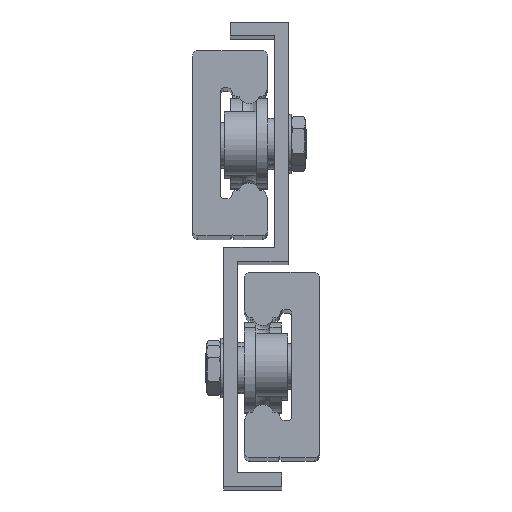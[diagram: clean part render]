
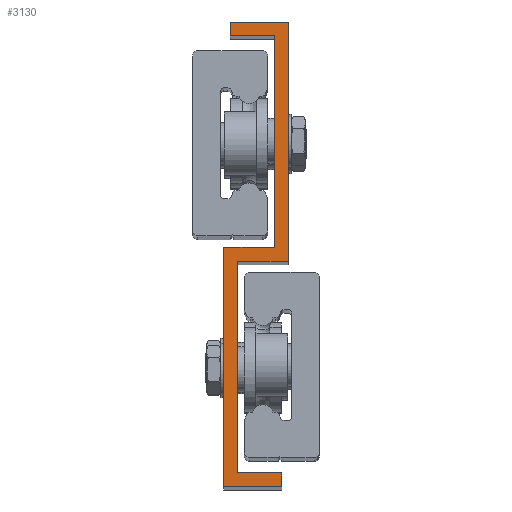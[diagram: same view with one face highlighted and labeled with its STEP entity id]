
A CAD part, top view. The second image highlights one B-rep face of the part: STEP entity #3130.
In plain terms, the highlighted planar face has unit normal (0, 0, 1).
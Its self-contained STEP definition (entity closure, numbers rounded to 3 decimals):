
#60 = DIRECTION ( 'NONE',  ( 1., 0., 0. ) ) ;
#285 = ORIENTED_EDGE ( 'NONE', *, *, #1359, .T. ) ;
#489 = EDGE_CURVE ( 'NONE', #4816, #2777, #667, .T. ) ;
#498 = VERTEX_POINT ( 'NONE', #8201 ) ;
#526 = VECTOR ( 'NONE', #3832, 1000. ) ;
#667 = LINE ( 'NONE', #3476, #6866 ) ;
#679 = EDGE_CURVE ( 'NONE', #498, #6104, #2399, .T. ) ;
#707 = DIRECTION ( 'NONE',  ( 1., 0., 0. ) ) ;
#960 = FACE_OUTER_BOUND ( 'NONE', #1976, .T. ) ;
#1023 = VERTEX_POINT ( 'NONE', #6354 ) ;
#1195 = DIRECTION ( 'NONE',  ( 0., 1., 0. ) ) ;
#1359 = EDGE_CURVE ( 'NONE', #2777, #3383, #3498, .T. ) ;
#1445 = CARTESIAN_POINT ( 'NONE',  ( 0., 0., 370. ) ) ;
#1765 = CARTESIAN_POINT ( 'NONE',  ( 1.2, 85.2, 370. ) ) ;
#1912 = DIRECTION ( 'NONE',  ( 0., -1., 0. ) ) ;
#1948 = VECTOR ( 'NONE', #1195, 1000. ) ;
#1976 = EDGE_LOOP ( 'NONE', ( #285, #4547, #7558, #6493, #6634, #4716, #6992, #8151, #5974, #3929, #6964, #5746 ) ) ;
#2097 = VECTOR ( 'NONE', #2145, 1000. ) ;
#2100 = CARTESIAN_POINT ( 'NONE',  ( 0., 0., 370. ) ) ;
#2145 = DIRECTION ( 'NONE',  ( 0., 1., 0. ) ) ;
#2171 = EDGE_CURVE ( 'NONE', #3971, #498, #2822, .T. ) ;
#2342 = CARTESIAN_POINT ( 'NONE',  ( 1.2, 85.2, 370. ) ) ;
#2399 = LINE ( 'NONE', #8827, #526 ) ;
#2554 = CARTESIAN_POINT ( 'NONE',  ( 11., 0., 370. ) ) ;
#2744 = DIRECTION ( 'NONE',  ( -1., 0., 0. ) ) ;
#2777 = VERTEX_POINT ( 'NONE', #3949 ) ;
#2822 = LINE ( 'NONE', #7874, #3691 ) ;
#2949 = DIRECTION ( 'NONE',  ( -1., 0., 0. ) ) ;
#3130 = ADVANCED_FACE ( 'NONE', ( #960 ), #3767, .T. ) ;
#3237 = VECTOR ( 'NONE', #2949, 1000. ) ;
#3383 = VERTEX_POINT ( 'NONE', #3695 ) ;
#3476 = CARTESIAN_POINT ( 'NONE',  ( 12.2, 45.2, 370. ) ) ;
#3498 = LINE ( 'NONE', #7809, #3237 ) ;
#3536 = DIRECTION ( 'NONE',  ( -1., 0., 0. ) ) ;
#3628 = CARTESIAN_POINT ( 'NONE',  ( 2.6, 42.6, 370. ) ) ;
#3691 = VECTOR ( 'NONE', #60, 1000. ) ;
#3695 = CARTESIAN_POINT ( 'NONE',  ( 1.2, 87.8, 370. ) ) ;
#3767 = PLANE ( 'NONE',  #5013 ) ;
#3832 = DIRECTION ( 'NONE',  ( 0., 1., 0. ) ) ;
#3929 = ORIENTED_EDGE ( 'NONE', *, *, #4078, .T. ) ;
#3948 = EDGE_CURVE ( 'NONE', #5750, #3383, #5928, .T. ) ;
#3949 = CARTESIAN_POINT ( 'NONE',  ( 12.2, 87.8, 370. ) ) ;
#3971 = VERTEX_POINT ( 'NONE', #4127 ) ;
#4078 = EDGE_CURVE ( 'NONE', #1023, #4203, #5382, .T. ) ;
#4127 = CARTESIAN_POINT ( 'NONE',  ( 0., 45.2, 370. ) ) ;
#4154 = LINE ( 'NONE', #6925, #8755 ) ;
#4190 = EDGE_CURVE ( 'NONE', #7478, #8920, #8395, .T. ) ;
#4203 = VERTEX_POINT ( 'NONE', #3628 ) ;
#4471 = VECTOR ( 'NONE', #1912, 1000. ) ;
#4528 = EDGE_CURVE ( 'NONE', #8920, #3971, #4983, .T. ) ;
#4547 = ORIENTED_EDGE ( 'NONE', *, *, #3948, .F. ) ;
#4634 = VECTOR ( 'NONE', #5442, 1000. ) ;
#4716 = ORIENTED_EDGE ( 'NONE', *, *, #4528, .F. ) ;
#4722 = LINE ( 'NONE', #6713, #4471 ) ;
#4816 = VERTEX_POINT ( 'NONE', #8242 ) ;
#4834 = VERTEX_POINT ( 'NONE', #8931 ) ;
#4948 = DIRECTION ( 'NONE',  ( -1., 0., 0. ) ) ;
#4983 = LINE ( 'NONE', #1445, #2097 ) ;
#5013 = AXIS2_PLACEMENT_3D ( 'NONE', #5098, #6572, #707 ) ;
#5098 = CARTESIAN_POINT ( 'NONE',  ( 0., 0., 370. ) ) ;
#5382 = LINE ( 'NONE', #7489, #1948 ) ;
#5442 = DIRECTION ( 'NONE',  ( 1., 0., 0. ) ) ;
#5746 = ORIENTED_EDGE ( 'NONE', *, *, #489, .T. ) ;
#5750 = VERTEX_POINT ( 'NONE', #1765 ) ;
#5928 = LINE ( 'NONE', #2342, #8256 ) ;
#5974 = ORIENTED_EDGE ( 'NONE', *, *, #8734, .T. ) ;
#6104 = VERTEX_POINT ( 'NONE', #6472 ) ;
#6280 = DIRECTION ( 'NONE',  ( 0., 1., 0. ) ) ;
#6354 = CARTESIAN_POINT ( 'NONE',  ( 2.6, 2.6, 370. ) ) ;
#6472 = CARTESIAN_POINT ( 'NONE',  ( 9.6, 85.2, 370. ) ) ;
#6493 = ORIENTED_EDGE ( 'NONE', *, *, #679, .F. ) ;
#6572 = DIRECTION ( 'NONE',  ( 0., 0., 1. ) ) ;
#6634 = ORIENTED_EDGE ( 'NONE', *, *, #2171, .F. ) ;
#6678 = LINE ( 'NONE', #6813, #8748 ) ;
#6713 = CARTESIAN_POINT ( 'NONE',  ( 11., 2.6, 370. ) ) ;
#6813 = CARTESIAN_POINT ( 'NONE',  ( 9.6, 85.2, 370. ) ) ;
#6866 = VECTOR ( 'NONE', #6280, 1000. ) ;
#6925 = CARTESIAN_POINT ( 'NONE',  ( 0., 2.6, 370. ) ) ;
#6946 = EDGE_CURVE ( 'NONE', #4834, #7478, #4722, .T. ) ;
#6964 = ORIENTED_EDGE ( 'NONE', *, *, #7991, .T. ) ;
#6992 = ORIENTED_EDGE ( 'NONE', *, *, #4190, .F. ) ;
#7478 = VERTEX_POINT ( 'NONE', #2554 ) ;
#7489 = CARTESIAN_POINT ( 'NONE',  ( 2.6, 0., 370. ) ) ;
#7558 = ORIENTED_EDGE ( 'NONE', *, *, #8281, .F. ) ;
#7681 = CARTESIAN_POINT ( 'NONE',  ( 0., 42.6, 370. ) ) ;
#7809 = CARTESIAN_POINT ( 'NONE',  ( 9.6, 87.8, 370. ) ) ;
#7874 = CARTESIAN_POINT ( 'NONE',  ( 0., 45.2, 370. ) ) ;
#7881 = CARTESIAN_POINT ( 'NONE',  ( 0., 0., 370. ) ) ;
#7991 = EDGE_CURVE ( 'NONE', #4203, #4816, #8278, .T. ) ;
#8151 = ORIENTED_EDGE ( 'NONE', *, *, #6946, .F. ) ;
#8201 = CARTESIAN_POINT ( 'NONE',  ( 9.6, 45.2, 370. ) ) ;
#8242 = CARTESIAN_POINT ( 'NONE',  ( 12.2, 42.6, 370. ) ) ;
#8256 = VECTOR ( 'NONE', #8638, 1000. ) ;
#8258 = VECTOR ( 'NONE', #3536, 1000. ) ;
#8278 = LINE ( 'NONE', #7681, #4634 ) ;
#8281 = EDGE_CURVE ( 'NONE', #6104, #5750, #6678, .T. ) ;
#8395 = LINE ( 'NONE', #2100, #8258 ) ;
#8638 = DIRECTION ( 'NONE',  ( 0., 1., 0. ) ) ;
#8734 = EDGE_CURVE ( 'NONE', #4834, #1023, #4154, .T. ) ;
#8748 = VECTOR ( 'NONE', #4948, 1000. ) ;
#8755 = VECTOR ( 'NONE', #2744, 1000. ) ;
#8827 = CARTESIAN_POINT ( 'NONE',  ( 9.6, 45.2, 370. ) ) ;
#8920 = VERTEX_POINT ( 'NONE', #7881 ) ;
#8931 = CARTESIAN_POINT ( 'NONE',  ( 11., 2.6, 370. ) ) ;
